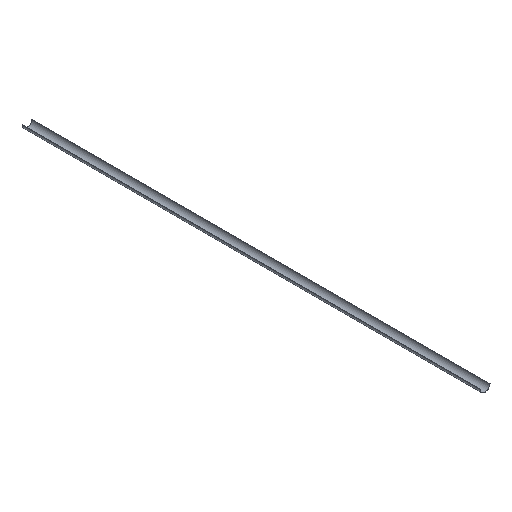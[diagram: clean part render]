
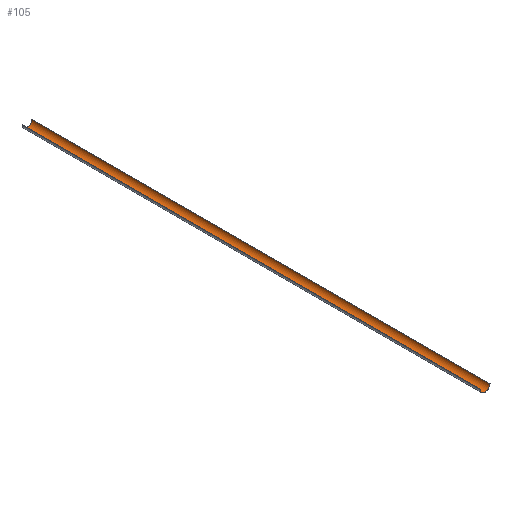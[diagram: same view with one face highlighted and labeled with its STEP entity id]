
A CAD part, isometric view. The second image highlights one B-rep face of the part: STEP entity #105.
In plain terms, the highlighted cylindrical face has radius 31.5 mm (diameter 63 mm), a partial arc.
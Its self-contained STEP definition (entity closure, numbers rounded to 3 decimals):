
#13=CYLINDRICAL_SURFACE($,#117,31.5);
#18=FACE_OUTER_BOUND($,#24,.T.);
#24=EDGE_LOOP($,(#82,#83,#84,#85));
#26=CIRCLE($,#111,31.5);
#29=CIRCLE($,#118,31.5);
#34=LINE($,#165,#42);
#37=LINE($,#173,#45);
#42=VECTOR($,#134,3000.);
#45=VECTOR($,#143,3000.);
#46=VERTEX_POINT($,#152);
#48=VERTEX_POINT($,#155);
#50=VERTEX_POINT($,#161);
#53=VERTEX_POINT($,#171);
#55=EDGE_CURVE($,#48,#46,#26,.T.);
#60=EDGE_CURVE($,#50,#48,#34,.T.);
#64=EDGE_CURVE($,#46,#53,#37,.T.);
#65=EDGE_CURVE($,#53,#50,#29,.T.);
#82=ORIENTED_EDGE($,*,*,#65,.T.);
#83=ORIENTED_EDGE($,*,*,#60,.T.);
#84=ORIENTED_EDGE($,*,*,#55,.T.);
#85=ORIENTED_EDGE($,*,*,#64,.T.);
#105=ADVANCED_FACE($,(#18),#13,.F.);
#111=AXIS2_PLACEMENT_3D($,#156,#125,#126);
#117=AXIS2_PLACEMENT_3D($,#174,#144,#145);
#118=AXIS2_PLACEMENT_3D($,#175,#146,#147);
#125=DIRECTION('center_axis',(0.,-1.,0.));
#126=DIRECTION('ref_axis',(-1.,0.,0.));
#134=DIRECTION($,(0.,-1.,0.));
#143=DIRECTION($,(0.,1.,0.));
#144=DIRECTION('center_axis',(0.,1.,0.));
#145=DIRECTION('ref_axis',(-1.,0.,0.));
#146=DIRECTION('center_axis',(0.,1.,0.));
#147=DIRECTION('ref_axis',(-1.,0.,0.));
#152=CARTESIAN_POINT('',(31.5,-1500.,0.));
#155=CARTESIAN_POINT('',(-31.5,-1500.,0.));
#156=CARTESIAN_POINT('Origin',(0.,-1500.,0.));
#161=CARTESIAN_POINT('',(-31.5,1500.,0.));
#165=CARTESIAN_POINT($,(-31.5,0.,0.));
#171=CARTESIAN_POINT('',(31.5,1500.,0.));
#173=CARTESIAN_POINT($,(31.5,0.,0.));
#174=CARTESIAN_POINT('Origin',(0.,0.,0.));
#175=CARTESIAN_POINT('Origin',(0.,1500.,0.));
